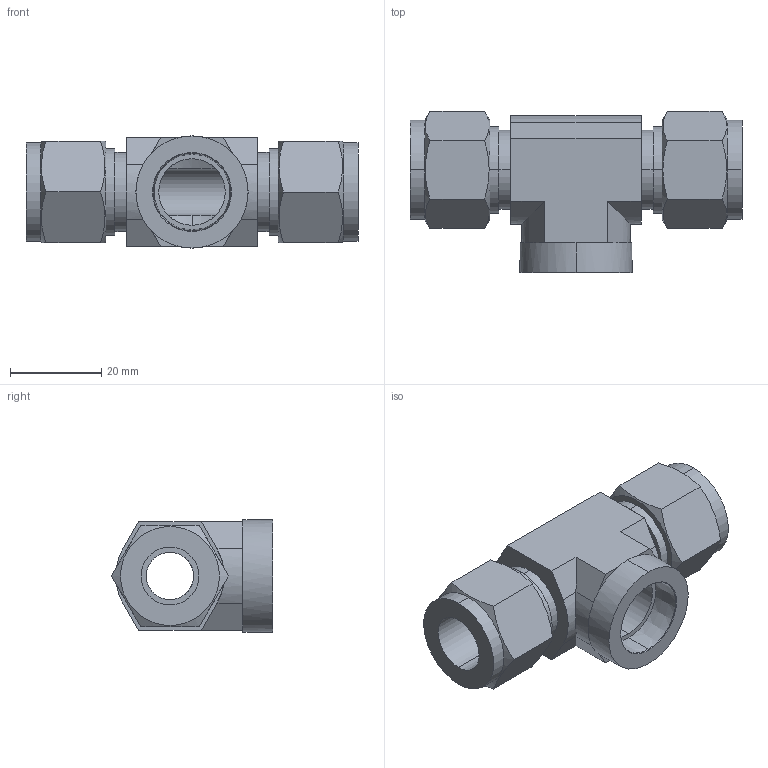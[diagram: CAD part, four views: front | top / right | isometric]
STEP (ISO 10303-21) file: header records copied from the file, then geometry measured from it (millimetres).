
FILE_DESCRIPTION (( 'STEP AP203' ), '1' );
FILE_NAME ('DTH08-06 SS.STEP', '2009-10-26T05:48:32', ( ' ' ), ( '' ), 'SwSTEP 2.0', 'SolidWorks 2008', '' );
FILE_SCHEMA (( 'CONFIG_CONTROL_DESIGN' ));
Length unit declared in the file: millimetre
Products named in the file (1): DTH08-06 SS
Bounding box: 72.8 x 35.33 x 24.6 mm (x, y, z)
Volume: 24687 mm3; surface area: 11269.1 mm2
Topology: 1 solids, 1 shells, 87 faces, 208 edges, 131 vertices
Faces by surface type: plane 44, cylinder 28, cone 15
Entity records: 2902 total; most frequent: CARTESIAN_POINT 816, ORIENTED_EDGE 416, DIRECTION 415, EDGE_CURVE 208, AXIS2_PLACEMENT_3D 158, VERTEX_POINT 131, EDGE_LOOP 99, VECTOR 99
